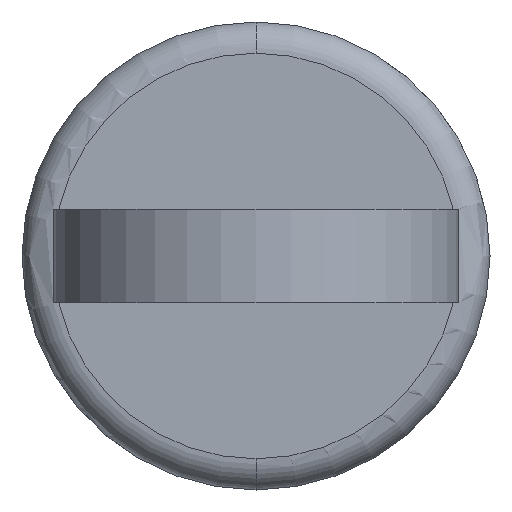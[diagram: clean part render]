
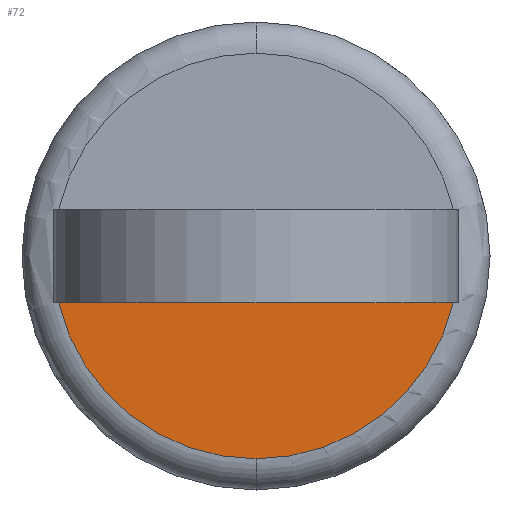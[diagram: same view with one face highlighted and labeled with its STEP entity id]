
A CAD part, front view. The second image highlights one B-rep face of the part: STEP entity #72.
In plain terms, the highlighted planar face has unit normal (0, -1, 0).
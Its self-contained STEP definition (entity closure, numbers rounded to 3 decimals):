
#61 = CARTESIAN_POINT ( 'NONE',  ( 0., 11., 0. ) ) ;
#72 = ADVANCED_FACE ( 'NONE', ( #787 ), #503, .F. ) ;
#100 = CARTESIAN_POINT ( 'NONE',  ( -6.325, 11., -1.5 ) ) ;
#134 = DIRECTION ( 'NONE',  ( 0., 0., 1. ) ) ;
#226 = DIRECTION ( 'NONE',  ( 0., 0., 1. ) ) ;
#267 = EDGE_CURVE ( 'NONE', #725, #735, #372, .T. ) ;
#329 = CARTESIAN_POINT ( 'NONE',  ( 0., 11., 0. ) ) ;
#369 = VERTEX_POINT ( 'NONE', #783 ) ;
#372 = CIRCLE ( 'NONE', #618, 6.5 ) ;
#409 = ORIENTED_EDGE ( 'NONE', *, *, #436, .T. ) ;
#436 = EDGE_CURVE ( 'NONE', #735, #369, #536, .T. ) ;
#440 = DIRECTION ( 'NONE',  ( -1., 0., 0. ) ) ;
#443 = ORIENTED_EDGE ( 'NONE', *, *, #267, .T. ) ;
#503 = PLANE ( 'NONE',  #880 ) ;
#512 = DIRECTION ( 'NONE',  ( 0., 1., 0. ) ) ;
#536 = CIRCLE ( 'NONE', #986, 6.5 ) ;
#581 = DIRECTION ( 'NONE',  ( 0., -1., 0. ) ) ;
#618 = AXIS2_PLACEMENT_3D ( 'NONE', #769, #581, #226 ) ;
#631 = VECTOR ( 'NONE', #440, 1000. ) ;
#697 = EDGE_CURVE ( 'NONE', #369, #725, #821, .T. ) ;
#725 = VERTEX_POINT ( 'NONE', #100 ) ;
#735 = VERTEX_POINT ( 'NONE', #1112 ) ;
#769 = CARTESIAN_POINT ( 'NONE',  ( 0., 11., 0. ) ) ;
#783 = CARTESIAN_POINT ( 'NONE',  ( 6.325, 11., -1.5 ) ) ;
#787 = FACE_OUTER_BOUND ( 'NONE', #983, .T. ) ;
#821 = LINE ( 'NONE', #1000, #631 ) ;
#880 = AXIS2_PLACEMENT_3D ( 'NONE', #61, #512, #134 ) ;
#983 = EDGE_LOOP ( 'NONE', ( #1121, #443, #409 ) ) ;
#986 = AXIS2_PLACEMENT_3D ( 'NONE', #329, #1071, #988 ) ;
#988 = DIRECTION ( 'NONE',  ( 0., 0., 1. ) ) ;
#1000 = CARTESIAN_POINT ( 'NONE',  ( -6.5, 11., -1.5 ) ) ;
#1071 = DIRECTION ( 'NONE',  ( 0., -1., 0. ) ) ;
#1112 = CARTESIAN_POINT ( 'NONE',  ( 0., 11., -6.5 ) ) ;
#1121 = ORIENTED_EDGE ( 'NONE', *, *, #697, .T. ) ;
